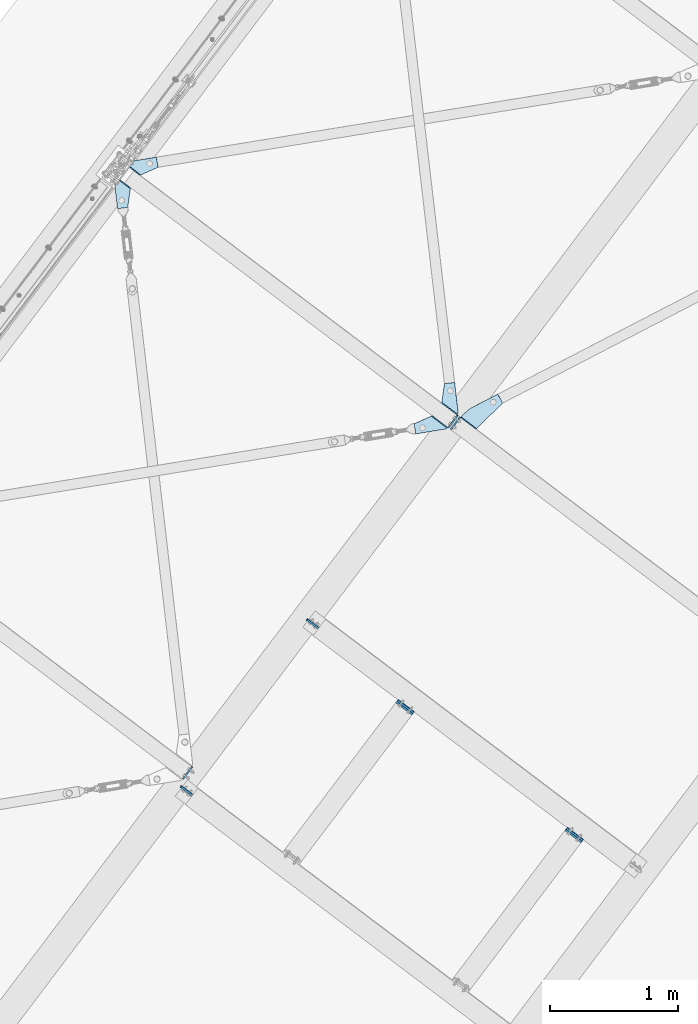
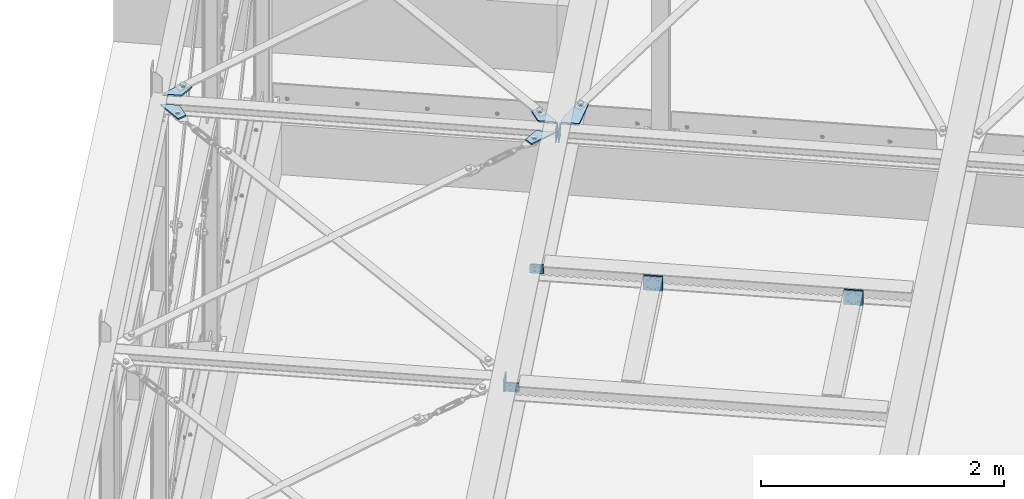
# One storey, part 57 of 476: 14 plates, 63 openings.
"""IFC2X3 building model written with IfcOpenShell, lengths in millimetres."""

from ifc_helpers import new_model, entity, si_unit, converted_unit, point, frame, frame_2d, origin, origin_with_axes, origin_2d_with_axis, place, context, project, spatial, polyline, circle_curve, line_curve, trimmed, segment, composite_curve, circle, outline, extrude, material, layer, layer_set, element, save


model = new_model("IFC2X3")

# Units and contexts
model_context = context("Model", 3, precision=1e-09, world=origin_with_axes())
ifc_project = project(units=[si_unit("LENGTHUNIT", "METRE", prefix="MILLI"), si_unit("AREAUNIT", "SQUARE_METRE"), si_unit("VOLUMEUNIT", "CUBIC_METRE"), converted_unit("PLANEANGLEUNIT", "DEGREE", entity("IfcPlaneAngleMeasure", 0.01745329), si_unit("PLANEANGLEUNIT", "RADIAN"), dimensions=[0, 0, 0, 0, 0, 0, 0])], contexts=[model_context])

# Site, building, storey
site_placement = place(None, origin_with_axes())
site = spatial("IfcSite", under=ifc_project, at=site_placement, Name="mKR Teilneubau & Sanierung BA1 - Ostfildern", CompositionType="ELEMENT")
building_placement = place(site_placement, origin_with_axes())
building = spatial("IfcBuilding", under=site, at=building_placement, Name="Struktur 1", CompositionType="ELEMENT")
storey_placement = place(building_placement, origin_with_axes())
storey = spatial("IfcBuildingStorey", under=building, at=storey_placement, Name="Default Storey", CompositionType="ELEMENT", Elevation=0.0)

# Plate, openings
ifc_material = material(Name="S235JR")
ifc_layer_1 = layer(ifc_material, 15.0)
ifc_layer_set_1 = layer_set([ifc_layer_1], Name="S235JR")
plate_1_placement = place(None, frame((7057.963107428, 3608.258213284, 5423.379264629), z_axis=(-0.018098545, -0.02396011, 0.999549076), x_axis=(0.602462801, 0.797581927, 0.030027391)))
plate_1 = element("IfcPlate", 1, at=plate_1_placement, inside=storey, material=ifc_layer_set_1, Name="-", ObjectType="-", context=model_context, shape_type="SweptSolid", body=[
    extrude(outline(polyline([(0.0, 0.0), (16.761939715, 0.0), (192.636873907, 167.974256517), (137.382787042, 225.827096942), (1.572e-05, 149.999963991), (0.0, 0.0)])), origin_with_axes(), (0.0, 0.0, -1.0), 15.0),
])
opening_1_placement = place(plate_1_placement, frame((0.0, -0.000999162, 0.0), z_axis=(1.05e-07, 1.0, 0.0), x_axis=(1.0, -1.05e-07, 0.0)))
element("IfcOpeningElement", 2, at=opening_1_placement, cuts=plate_1, ObjectType="Opening", context=model_context, shape_type="SweptSolid", body=[
    extrude(outline(polyline([(0.0, 0.0), (8.0, 0.0), (0.0, 8.0), (0.0, 0.0)])), origin(), (0.0, 0.0, 1.0), 154.437489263),
])
opening_2_placement = place(plate_1_placement, frame((121.62025065, 155.460173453, -15.499849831), z_axis=(-7.613e-06, -7.271e-06, 1.0), x_axis=(-0.723163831, -0.690676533, -1.0527e-05)))
element("IfcOpeningElement", 3, at=opening_2_placement, cuts=plate_1, ObjectType="Opening", context=model_context, shape_type="SweptSolid", body=[
    extrude(circle(Radius=14.501, at=origin_2d_with_axis()), origin(), (0.0, 0.0, 1.0), 16.000000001),
])

plate_2_placement = place(None, frame((4454.120199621, 5575.101289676, 5423.379274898), z_axis=(0.018098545, 0.02396011, -0.999549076), x_axis=(0.602462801, 0.797581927, 0.030027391)))
plate_2 = element("IfcPlate", 4, at=plate_2_placement, inside=storey, material=ifc_layer_set_1, Name="-", ObjectType="-", context=model_context, shape_type="SweptSolid", body=[
    extrude(outline(polyline([(0.0, 0.0), (16.761939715, 0.0), (192.636873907, 167.974256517), (137.382787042, 225.827096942), (1.572e-05, 149.999963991), (0.0, 0.0)])), origin_with_axes(), (0.0, 0.0, 1.0), 15.0),
])
opening_3_placement = place(plate_2_placement, frame((1.6183e-05, 154.416490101, 0.0), z_axis=(-1.05e-07, -1.0, 0.0), x_axis=(1.0, -1.05e-07, 0.0)))
element("IfcOpeningElement", 5, at=opening_3_placement, cuts=plate_2, ObjectType="Opening", context=model_context, shape_type="SweptSolid", body=[
    extrude(outline(polyline([(0.0, 0.0), (8.0, 0.0), (0.0, 8.0), (0.0, 0.0)])), origin(), (0.0, 0.0, 1.0), 154.437489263),
])
opening_4_placement = place(plate_2_placement, frame((132.106849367, 165.475673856, 15.499709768), z_axis=(7.613e-06, 7.271e-06, 1.0), x_axis=(1.0, 0.0, -7.613e-06)))
element("IfcOpeningElement", 6, at=opening_4_placement, cuts=plate_2, ObjectType="Opening", context=model_context, shape_type="SweptSolid", body=[
    extrude(circle(Radius=14.501, at=frame_2d((-10.486598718, -10.015500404), x_axis=(1.0, 0.0))), origin(), (0.0, 0.0, -1.0), 16.000000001),
])

plate_3_placement = place(None, frame((4381.825158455, 5479.391625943, 5419.776000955), z_axis=(-0.018098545, -0.02396011, 0.999549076), x_axis=(-0.602462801, -0.797581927, -0.030027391)))
plate_3 = element("IfcPlate", 7, at=plate_3_placement, inside=storey, material=ifc_layer_set_1, Name="-", ObjectType="-", context=model_context, shape_type="SweptSolid", body=[
    extrude(outline(polyline([(0.0, 0.0), (16.761939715, 0.0), (192.636873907, 167.974256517), (137.382787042, 225.827096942), (1.572e-05, 149.999963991), (0.0, 0.0)])), origin_with_axes(), (0.0, 0.0, -1.0), 15.0),
])
opening_5_placement = place(plate_3_placement, frame((0.0, -0.000999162, 0.0), z_axis=(1.05e-07, 1.0, 0.0), x_axis=(1.0, -1.05e-07, 0.0)))
element("IfcOpeningElement", 8, at=opening_5_placement, cuts=plate_3, ObjectType="Opening", context=model_context, shape_type="SweptSolid", body=[
    extrude(outline(polyline([(0.0, 0.0), (8.0, 0.0), (0.0, 8.0), (0.0, 0.0)])), origin(), (0.0, 0.0, 1.0), 154.437489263),
])
opening_6_placement = place(plate_3_placement, frame((121.62025065, 155.460173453, -15.499862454), z_axis=(-7.613e-06, -7.271e-06, 1.0), x_axis=(-0.723163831, -0.690676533, -1.0527e-05)))
element("IfcOpeningElement", 9, at=opening_6_placement, cuts=plate_3, ObjectType="Opening", context=model_context, shape_type="SweptSolid", body=[
    extrude(circle(Radius=14.501, at=origin_2d_with_axis()), origin(), (0.0, 0.0, 1.0), 16.000000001),
])

plate_4_placement = place(None, frame((6985.667597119, 3512.548903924, 5419.775990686), z_axis=(0.018098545, 0.02396011, -0.999549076), x_axis=(-0.602462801, -0.797581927, -0.030027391)))
plate_4 = element("IfcPlate", 10, at=plate_4_placement, inside=storey, material=ifc_layer_set_1, Name="-", ObjectType="-", context=model_context, shape_type="SweptSolid", body=[
    extrude(outline(polyline([(0.0, 0.0), (16.761939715, 0.0), (192.636873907, 167.974256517), (137.382787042, 225.827096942), (1.572e-05, 149.999963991), (0.0, 0.0)])), origin_with_axes(), (0.0, 0.0, 1.0), 15.0),
])
opening_7_placement = place(plate_4_placement, frame((1.6183e-05, 154.416490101, 0.0), z_axis=(-1.05e-07, -1.0, 0.0), x_axis=(1.0, -1.05e-07, 0.0)))
element("IfcOpeningElement", 11, at=opening_7_placement, cuts=plate_4, ObjectType="Opening", context=model_context, shape_type="SweptSolid", body=[
    extrude(outline(polyline([(0.0, 0.0), (8.0, 0.0), (0.0, 8.0), (0.0, 0.0)])), origin(), (0.0, 0.0, 1.0), 154.437489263),
])
opening_8_placement = place(plate_4_placement, frame((132.106849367, 165.475673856, 15.499697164), z_axis=(7.613e-06, 7.271e-06, 1.0), x_axis=(1.0, 0.0, -7.613e-06)))
element("IfcOpeningElement", 12, at=opening_8_placement, cuts=plate_4, ObjectType="Opening", context=model_context, shape_type="SweptSolid", body=[
    extrude(circle(Radius=14.501, at=frame_2d((-10.486598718, -10.015500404), x_axis=(1.0, 0.0))), origin(), (0.0, 0.0, -1.0), 16.000000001),
])

plate_5_placement = place(None, frame((7086.689543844, 3586.559364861, 5423.379264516), z_axis=(0.018098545, 0.02396011, -0.999549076), x_axis=(0.602462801, 0.797581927, 0.030027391)))
plate_5 = element("IfcPlate", 13, at=plate_5_placement, inside=storey, material=ifc_layer_set_1, Name="-", ObjectType="-", context=model_context, shape_type="SweptSolid", body=[
    extrude(outline(polyline([(0.0, 0.0), (70.398485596, 0.0), (323.938469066, 121.203483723), (289.437598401, 193.381665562), (1.572e-05, 149.999963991), (0.0, 0.0)])), origin_with_axes(), (0.0, 0.0, 1.0), 15.0),
])
opening_9_placement = place(plate_5_placement, frame((0.0, 0.0, -0.01), z_axis=(0.0, 0.0, 1.0), x_axis=(1.0, 0.0, 0.0)))
element("IfcOpeningElement", 14, at=opening_9_placement, cuts=plate_5, ObjectType="Opening", context=model_context, shape_type="SweptSolid", body=[
    extrude(outline(composite_curve([segment(trimmed(line_curve((70.398485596, 0.0), (0.902210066, 0.431296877), 39.67855855), [point((70.398485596, 0.0))], [point((106.196880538, 17.113238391))], True, "CARTESIAN"), True, "CONTINUOUS"), segment(trimmed(circle_curve(frame_2d((30.719927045, 175.0), x_axis=(-1.0, 0.0)), 175.0), [point((106.196880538, 17.113238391))], [point((30.719927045, 0.0))], False, "CARTESIAN"), True, "CONTINUOUS"), segment(trimmed(line_curve((30.719927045, 0.0), (1.0, 0.0), 39.67855855), [point((30.719927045, 0.0))], [point((70.398485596, 0.0))], True, "CARTESIAN"), True, "CONTINUOUS")], self_intersect=False)), origin(), (0.0, 0.0, 1.0), 15.02),
])
opening_10_placement = place(plate_5_placement, frame((1.5846e-05, 151.200026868, 0.0), z_axis=(-1.05e-07, -1.0, 0.0), x_axis=(1.0, -1.05e-07, 0.0)))
element("IfcOpeningElement", 15, at=opening_10_placement, cuts=plate_5, ObjectType="Opening", context=model_context, shape_type="SweptSolid", body=[
    extrude(outline(polyline([(0.0, 0.0), (8.0, 0.0), (0.0, 8.0), (0.0, 0.0)])), origin(), (0.0, 0.0, 1.0), 151.22102603),
])
opening_11_placement = place(plate_5_placement, frame((252.555593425, 131.414864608, 15.49981121), z_axis=(-1.1849e-05, -5.664e-06, -1.0), x_axis=(-0.902210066, -0.431296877, 1.3134e-05)))
element("IfcOpeningElement", 16, at=opening_11_placement, cuts=plate_5, ObjectType="Opening", context=model_context, shape_type="SweptSolid", body=[
    extrude(circle(Radius=14.501, at=origin_2d_with_axis()), origin(), (0.0, 0.0, 1.0), 16.000000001),
])

plate_6_placement = place(None, frame((7967.694173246, 307.012140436, 5344.632091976), z_axis=(0.602462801, 0.797581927, 0.030027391), x_axis=(0.018098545, 0.02396011, -0.999549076)))
plate_6 = element("IfcPlate", 17, at=plate_6_placement, inside=storey, material=ifc_layer_set_1, Name="Endplate#1", ObjectType="Endplate#1", context=model_context, shape_type="SweptSolid", body=[
    extrude(outline(polyline([(-70.0, -80.0), (70.0, -80.0), (70.0, 80.0), (-70.0, 80.0), (-70.0, -80.0)])), origin_with_axes(), (0.0, 0.0, 1.0), 15.0),
])
opening_12_placement = place(plate_6_placement, frame((-52.0, 18.0, 15.5), z_axis=(0.0, 0.0, -1.0), x_axis=(-1.0, 0.0, 0.0)))
element("IfcOpeningElement", 18, at=opening_12_placement, cuts=plate_6, ObjectType="Opening", context=model_context, shape_type="SweptSolid", body=[
    extrude(circle(Radius=6.001, at=origin_2d_with_axis()), origin(), (0.0, 0.0, 1.0), 16.0),
])
opening_13_placement = place(plate_6_placement, frame((52.0, 18.0, 15.5), z_axis=(0.0, 0.0, -1.0), x_axis=(-1.0, 0.0, 0.0)))
element("IfcOpeningElement", 19, at=opening_13_placement, cuts=plate_6, ObjectType="Opening", context=model_context, shape_type="SweptSolid", body=[
    extrude(circle(Radius=6.001, at=origin_2d_with_axis()), origin(), (0.0, 0.0, 1.0), 16.0),
])
opening_14_placement = place(plate_6_placement, frame((52.0, -18.0, 15.5), z_axis=(0.0, 0.0, -1.0), x_axis=(-1.0, 0.0, 0.0)))
element("IfcOpeningElement", 20, at=opening_14_placement, cuts=plate_6, ObjectType="Opening", context=model_context, shape_type="SweptSolid", body=[
    extrude(circle(Radius=6.001, at=origin_2d_with_axis()), origin(), (0.0, 0.0, 1.0), 16.0),
])
opening_15_placement = place(plate_6_placement, frame((-52.0, -18.0, 15.5), z_axis=(0.0, 0.0, -1.0), x_axis=(-1.0, 0.0, 0.0)))
element("IfcOpeningElement", 21, at=opening_15_placement, cuts=plate_6, ObjectType="Opening", context=model_context, shape_type="SweptSolid", body=[
    extrude(circle(Radius=6.001, at=origin_2d_with_axis()), origin(), (0.0, 0.0, 1.0), 16.0),
])
opening_16_placement = place(plate_6_placement, frame((35.0, -43.0, 15.5), z_axis=(0.0, 0.0, -1.0), x_axis=(0.0, -1.0, 0.0)))
element("IfcOpeningElement", 22, at=opening_16_placement, cuts=plate_6, ObjectType="Opening", context=model_context, shape_type="SweptSolid", body=[
    extrude(circle(Radius=7.001, at=frame_2d((0.0, 70.0), x_axis=(1.0, 0.0))), origin(), (0.0, 0.0, 1.0), 16.0),
])
opening_17_placement = place(plate_6_placement, frame((35.0, -43.0, 15.5), z_axis=(0.0, 0.0, -1.0), x_axis=(0.0, -1.0, 0.0)))
element("IfcOpeningElement", 23, at=opening_17_placement, cuts=plate_6, ObjectType="Opening", context=model_context, shape_type="SweptSolid", body=[
    extrude(circle(Radius=7.001, at=origin_2d_with_axis()), origin(), (0.0, 0.0, 1.0), 16.0),
])
opening_18_placement = place(plate_6_placement, frame((35.0, 43.0, 15.5), z_axis=(0.0, 0.0, -1.0), x_axis=(-1.0, 0.0, 0.0)))
element("IfcOpeningElement", 24, at=opening_18_placement, cuts=plate_6, ObjectType="Opening", context=model_context, shape_type="SweptSolid", body=[
    extrude(circle(Radius=7.001, at=frame_2d((70.0, 0.0), x_axis=(1.0, 0.0))), origin(), (0.0, 0.0, 1.0), 16.0),
])
opening_19_placement = place(plate_6_placement, frame((35.0, 43.0, 15.5), z_axis=(0.0, 0.0, -1.0), x_axis=(-1.0, 0.0, 0.0)))
element("IfcOpeningElement", 25, at=opening_19_placement, cuts=plate_6, ObjectType="Opening", context=model_context, shape_type="SweptSolid", body=[
    extrude(circle(Radius=7.001, at=origin_2d_with_axis()), origin(), (0.0, 0.0, 1.0), 16.0),
])

plate_7_placement = place(None, frame((7985.768057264, 330.939598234, 5345.532913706), z_axis=(-0.602462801, -0.797581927, -0.030027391), x_axis=(0.797941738, -0.602734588, 0.0)))
plate_7 = element("IfcPlate", 26, at=plate_7_placement, inside=storey, material=ifc_layer_set_1, Name="T-plate", ObjectType="T-plate", context=model_context, shape_type="SweptSolid", body=[
    extrude(outline(polyline([(-80.0, -70.0), (80.0, -70.0), (80.0, 70.0), (-80.0, 70.0), (-80.0, -70.0)])), origin_with_axes(), (0.0, 0.0, 1.0), 15.0),
])
opening_20_placement = place(plate_7_placement, frame((43.0, -35.0, -0.5), z_axis=(0.0, 0.0, 1.0), x_axis=(1.0, 0.0, 0.0)))
element("IfcOpeningElement", 27, at=opening_20_placement, cuts=plate_7, ObjectType="Opening", context=model_context, shape_type="SweptSolid", body=[
    extrude(circle(Radius=7.001, at=frame_2d((0.0, 70.0), x_axis=(1.0, 0.0))), origin(), (0.0, 0.0, 1.0), 16.0),
])
opening_21_placement = place(plate_7_placement, frame((43.0, -35.0, -0.5), z_axis=(0.0, 0.0, 1.0), x_axis=(1.0, 0.0, 0.0)))
element("IfcOpeningElement", 28, at=opening_21_placement, cuts=plate_7, ObjectType="Opening", context=model_context, shape_type="SweptSolid", body=[
    extrude(circle(Radius=7.001, at=origin_2d_with_axis()), origin(), (0.0, 0.0, 1.0), 16.0),
])
opening_22_placement = place(plate_7_placement, frame((-43.0, -35.0, -0.5), z_axis=(0.0, 0.0, 1.0), x_axis=(0.0, 1.0, 0.0)))
element("IfcOpeningElement", 29, at=opening_22_placement, cuts=plate_7, ObjectType="Opening", context=model_context, shape_type="SweptSolid", body=[
    extrude(circle(Radius=7.001, at=frame_2d((70.0, 0.0), x_axis=(1.0, 0.0))), origin(), (0.0, 0.0, 1.0), 16.0),
])
opening_23_placement = place(plate_7_placement, frame((-43.0, -35.0, -0.5), z_axis=(0.0, 0.0, 1.0), x_axis=(0.0, 1.0, 0.0)))
element("IfcOpeningElement", 30, at=opening_23_placement, cuts=plate_7, ObjectType="Opening", context=model_context, shape_type="SweptSolid", body=[
    extrude(circle(Radius=7.001, at=origin_2d_with_axis()), origin(), (0.0, 0.0, 1.0), 16.0),
])

plate_8_placement = place(None, frame((5885.216553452, 2015.875794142, 5299.890733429), z_axis=(-0.602462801, -0.797581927, -0.030027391), x_axis=(0.797941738, -0.602734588, 0.0)))
plate_8 = element("IfcPlate", 31, at=plate_8_placement, inside=storey, material=ifc_layer_set_1, Name="LugPlate#2", ObjectType="LugPlate#2", context=model_context, shape_type="SweptSolid", body=[
    extrude(outline(polyline([(0.0, 0.0), (114.999999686, 0.0), (114.999999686, 90.0), (0.0, 90.0), (0.0, 0.0)])), origin_with_axes(), (0.0, 0.0, 1.0), 15.0),
])
opening_24_placement = place(plate_8_placement, frame((0.0, 0.0, -0.1), z_axis=(0.0, 0.0, 1.0), x_axis=(1.0, 0.0, 0.0)))
element("IfcOpeningElement", 32, at=opening_24_placement, cuts=plate_8, ObjectType="Opening", context=model_context, shape_type="SweptSolid", body=[
    extrude(outline(polyline([(24.002414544, 105.000956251), (-0.000999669, 105.000956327), (-0.000999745, 80.997542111), (24.002414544, 105.000956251)])), origin(), (0.0, 0.0, 1.0), 15.2),
])
opening_25_placement = place(plate_8_placement, frame((82.998999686, 25.0, -0.5), z_axis=(0.0, 0.0, -1.0), x_axis=(-1.0, 0.0, 0.0)))
element("IfcOpeningElement", 33, at=opening_25_placement, cuts=plate_8, ObjectType="Opening", context=model_context, shape_type="SweptSolid", body=[
    extrude(circle(Radius=7.001, at=frame_2d((-7.001, 0.0), x_axis=(1.0, 0.0))), origin(), (0.0, 0.0, -1.0), 16.0),
])
opening_26_placement = place(plate_8_placement, frame((32.998999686, 25.0, -0.5), z_axis=(0.0, 0.0, -1.0), x_axis=(-1.0, 0.0, 0.0)))
element("IfcOpeningElement", 34, at=opening_26_placement, cuts=plate_8, ObjectType="Opening", context=model_context, shape_type="SweptSolid", body=[
    extrude(circle(Radius=7.001, at=frame_2d((-7.001, 0.0), x_axis=(1.0, 0.0))), origin(), (0.0, 0.0, -1.0), 16.0),
])
opening_27_placement = place(plate_8_placement, frame((82.998999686, 65.0, -0.5), z_axis=(0.0, 0.0, -1.0), x_axis=(-1.0, 0.0, 0.0)))
element("IfcOpeningElement", 35, at=opening_27_placement, cuts=plate_8, ObjectType="Opening", context=model_context, shape_type="SweptSolid", body=[
    extrude(circle(Radius=7.001, at=frame_2d((-7.001, 0.0), x_axis=(1.0, 0.0))), origin(), (0.0, 0.0, -1.0), 16.0),
])
opening_28_placement = place(plate_8_placement, frame((32.998999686, 65.0, -0.5), z_axis=(0.0, 0.0, -1.0), x_axis=(-1.0, 0.0, 0.0)))
element("IfcOpeningElement", 36, at=opening_28_placement, cuts=plate_8, ObjectType="Opening", context=model_context, shape_type="SweptSolid", body=[
    extrude(circle(Radius=7.001, at=frame_2d((-7.001, 0.0), x_axis=(1.0, 0.0))), origin(), (0.0, 0.0, -1.0), 16.0),
])

plate_9_placement = place(None, frame((4887.114787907, 694.51935207, 5340.160691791), z_axis=(0.602462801, 0.797581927, 0.030027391), x_axis=(0.797941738, -0.602734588, 0.0)))
plate_9 = element("IfcPlate", 37, at=plate_9_placement, inside=storey, material=ifc_layer_set_1, Name="LugPlate#1", ObjectType="LugPlate#1", context=model_context, shape_type="SweptSolid", body=[
    extrude(outline(polyline([(0.0, 0.0), (115.000000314, 0.0), (115.000000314, 90.0), (0.0, 90.0), (0.0, 0.0)])), origin_with_axes(), (0.0, 0.0, 1.0), 15.0),
])
opening_29_placement = place(plate_9_placement, frame((0.0, 0.0, 15.1), z_axis=(0.0, 0.0, -1.0), x_axis=(1.0, 0.0, 0.0)))
element("IfcOpeningElement", 38, at=opening_29_placement, cuts=plate_9, ObjectType="Opening", context=model_context, shape_type="SweptSolid", body=[
    extrude(outline(polyline([(24.002414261, 15.001043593), (-0.000999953, 15.001043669), (-0.001000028, -9.002370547), (24.002414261, 15.001043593)])), origin(), (0.0, 0.0, 1.0), 15.2),
])
opening_30_placement = place(plate_9_placement, frame((82.999000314, 65.0, 15.5), z_axis=(0.0, 0.0, 1.0), x_axis=(1.0, 0.0, 0.0)))
element("IfcOpeningElement", 39, at=opening_30_placement, cuts=plate_9, ObjectType="Opening", context=model_context, shape_type="SweptSolid", body=[
    extrude(circle(Radius=7.001, at=frame_2d((7.001, 0.0), x_axis=(1.0, 0.0))), origin(), (0.0, 0.0, -1.0), 16.0),
])
opening_31_placement = place(plate_9_placement, frame((32.999000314, 65.0, 15.5), z_axis=(0.0, 0.0, 1.0), x_axis=(1.0, 0.0, 0.0)))
element("IfcOpeningElement", 40, at=opening_31_placement, cuts=plate_9, ObjectType="Opening", context=model_context, shape_type="SweptSolid", body=[
    extrude(circle(Radius=7.001, at=frame_2d((7.001, 0.0), x_axis=(1.0, 0.0))), origin(), (0.0, 0.0, -1.0), 16.0),
])
opening_32_placement = place(plate_9_placement, frame((82.999000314, 25.0, 15.5), z_axis=(0.0, 0.0, 1.0), x_axis=(1.0, 0.0, 0.0)))
element("IfcOpeningElement", 41, at=opening_32_placement, cuts=plate_9, ObjectType="Opening", context=model_context, shape_type="SweptSolid", body=[
    extrude(circle(Radius=7.001, at=frame_2d((7.001, 0.0), x_axis=(1.0, 0.0))), origin(), (0.0, 0.0, -1.0), 16.0),
])
opening_33_placement = place(plate_9_placement, frame((32.999000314, 25.0, 15.5), z_axis=(0.0, 0.0, 1.0), x_axis=(1.0, 0.0, 0.0)))
element("IfcOpeningElement", 42, at=opening_33_placement, cuts=plate_9, ObjectType="Opening", context=model_context, shape_type="SweptSolid", body=[
    extrude(circle(Radius=7.001, at=frame_2d((7.001, 0.0), x_axis=(1.0, 0.0))), origin(), (0.0, 0.0, -1.0), 16.0),
])

plate_10_placement = place(None, frame((6643.110888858, 1307.55155631, 5344.6320972), z_axis=(0.602462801, 0.797581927, 0.030027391), x_axis=(0.018098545, 0.02396011, -0.999549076)))
plate_10 = element("IfcPlate", 43, at=plate_10_placement, inside=storey, material=ifc_layer_set_1, Name="Endplate#1", ObjectType="Endplate#1", context=model_context, shape_type="SweptSolid", body=[
    extrude(outline(polyline([(-70.0, -80.0), (70.0, -80.0), (70.0, 80.0), (-70.0, 80.0), (-70.0, -80.0)])), origin_with_axes(), (0.0, 0.0, 1.0), 15.0),
])
opening_34_placement = place(plate_10_placement, frame((-52.0, 18.0, 15.5), z_axis=(0.0, 0.0, -1.0), x_axis=(-1.0, 0.0, 0.0)))
element("IfcOpeningElement", 44, at=opening_34_placement, cuts=plate_10, ObjectType="Opening", context=model_context, shape_type="SweptSolid", body=[
    extrude(circle(Radius=6.001, at=origin_2d_with_axis()), origin(), (0.0, 0.0, 1.0), 16.0),
])
opening_35_placement = place(plate_10_placement, frame((52.0, 18.0, 15.5), z_axis=(0.0, 0.0, -1.0), x_axis=(-1.0, 0.0, 0.0)))
element("IfcOpeningElement", 45, at=opening_35_placement, cuts=plate_10, ObjectType="Opening", context=model_context, shape_type="SweptSolid", body=[
    extrude(circle(Radius=6.001, at=origin_2d_with_axis()), origin(), (0.0, 0.0, 1.0), 16.0),
])
opening_36_placement = place(plate_10_placement, frame((52.0, -18.0, 15.5), z_axis=(0.0, 0.0, -1.0), x_axis=(-1.0, 0.0, 0.0)))
element("IfcOpeningElement", 46, at=opening_36_placement, cuts=plate_10, ObjectType="Opening", context=model_context, shape_type="SweptSolid", body=[
    extrude(circle(Radius=6.001, at=origin_2d_with_axis()), origin(), (0.0, 0.0, 1.0), 16.0),
])
opening_37_placement = place(plate_10_placement, frame((-52.0, -18.0, 15.5), z_axis=(0.0, 0.0, -1.0), x_axis=(-1.0, 0.0, 0.0)))
element("IfcOpeningElement", 47, at=opening_37_placement, cuts=plate_10, ObjectType="Opening", context=model_context, shape_type="SweptSolid", body=[
    extrude(circle(Radius=6.001, at=origin_2d_with_axis()), origin(), (0.0, 0.0, 1.0), 16.0),
])
opening_38_placement = place(plate_10_placement, frame((35.0, 43.0, 15.5), z_axis=(0.0, 0.0, -1.0), x_axis=(-1.0, 0.0, 0.0)))
element("IfcOpeningElement", 48, at=opening_38_placement, cuts=plate_10, ObjectType="Opening", context=model_context, shape_type="SweptSolid", body=[
    extrude(circle(Radius=7.001, at=frame_2d((70.0, 0.0), x_axis=(1.0, 0.0))), origin(), (0.0, 0.0, 1.0), 16.0),
])
opening_39_placement = place(plate_10_placement, frame((35.0, 43.0, 15.5), z_axis=(0.0, 0.0, -1.0), x_axis=(-1.0, 0.0, 0.0)))
element("IfcOpeningElement", 49, at=opening_39_placement, cuts=plate_10, ObjectType="Opening", context=model_context, shape_type="SweptSolid", body=[
    extrude(circle(Radius=7.001, at=origin_2d_with_axis()), origin(), (0.0, 0.0, 1.0), 16.0),
])
opening_40_placement = place(plate_10_placement, frame((35.0, -43.0, 15.5), z_axis=(0.0, 0.0, -1.0), x_axis=(0.0, -1.0, 0.0)))
element("IfcOpeningElement", 50, at=opening_40_placement, cuts=plate_10, ObjectType="Opening", context=model_context, shape_type="SweptSolid", body=[
    extrude(circle(Radius=7.001, at=frame_2d((0.0, 70.0), x_axis=(1.0, 0.0))), origin(), (0.0, 0.0, 1.0), 16.0),
])
opening_41_placement = place(plate_10_placement, frame((35.0, -43.0, 15.5), z_axis=(0.0, 0.0, -1.0), x_axis=(0.0, -1.0, 0.0)))
element("IfcOpeningElement", 51, at=opening_41_placement, cuts=plate_10, ObjectType="Opening", context=model_context, shape_type="SweptSolid", body=[
    extrude(circle(Radius=7.001, at=origin_2d_with_axis()), origin(), (0.0, 0.0, 1.0), 16.0),
])

plate_11_placement = place(None, frame((6661.184772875, 1331.479014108, 5345.53291893), z_axis=(-0.602462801, -0.797581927, -0.030027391), x_axis=(0.797941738, -0.602734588, 0.0)))
plate_11 = element("IfcPlate", 52, at=plate_11_placement, inside=storey, material=ifc_layer_set_1, Name="T-plate", ObjectType="T-plate", context=model_context, shape_type="SweptSolid", body=[
    extrude(outline(polyline([(-80.0, -70.0), (80.0, -70.0), (80.0, 70.0), (-80.0, 70.0), (-80.0, -70.0)])), origin_with_axes(), (0.0, 0.0, 1.0), 15.0),
])
opening_42_placement = place(plate_11_placement, frame((-43.0, -35.0, -0.5), z_axis=(0.0, 0.0, 1.0), x_axis=(0.0, 1.0, 0.0)))
element("IfcOpeningElement", 53, at=opening_42_placement, cuts=plate_11, ObjectType="Opening", context=model_context, shape_type="SweptSolid", body=[
    extrude(circle(Radius=7.001, at=frame_2d((70.0, 0.0), x_axis=(1.0, 0.0))), origin(), (0.0, 0.0, 1.0), 16.0),
])
opening_43_placement = place(plate_11_placement, frame((-43.0, -35.0, -0.5), z_axis=(0.0, 0.0, 1.0), x_axis=(0.0, 1.0, 0.0)))
element("IfcOpeningElement", 54, at=opening_43_placement, cuts=plate_11, ObjectType="Opening", context=model_context, shape_type="SweptSolid", body=[
    extrude(circle(Radius=7.001, at=origin_2d_with_axis()), origin(), (0.0, 0.0, 1.0), 16.0),
])
opening_44_placement = place(plate_11_placement, frame((43.0, -35.0, -0.5), z_axis=(0.0, 0.0, 1.0), x_axis=(1.0, 0.0, 0.0)))
element("IfcOpeningElement", 55, at=opening_44_placement, cuts=plate_11, ObjectType="Opening", context=model_context, shape_type="SweptSolid", body=[
    extrude(circle(Radius=7.001, at=frame_2d((0.0, 70.0), x_axis=(1.0, 0.0))), origin(), (0.0, 0.0, 1.0), 16.0),
])
opening_45_placement = place(plate_11_placement, frame((43.0, -35.0, -0.5), z_axis=(0.0, 0.0, 1.0), x_axis=(1.0, 0.0, 0.0)))
element("IfcOpeningElement", 56, at=opening_45_placement, cuts=plate_11, ObjectType="Opening", context=model_context, shape_type="SweptSolid", body=[
    extrude(circle(Radius=7.001, at=origin_2d_with_axis()), origin(), (0.0, 0.0, 1.0), 16.0),
])

ifc_layer_2 = layer(ifc_material, 12.0)
ifc_layer_set_2 = layer_set([ifc_layer_2], Name="S235JR")
plate_12_placement = place(None, frame((4915.718181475, 752.295774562, 5321.082135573), z_axis=(-0.797941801, 0.602734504, 0.0), x_axis=(0.602462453, 0.797581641, 0.030041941)))
plate_12 = element("IfcPlate", 57, at=plate_12_placement, inside=storey, material=ifc_layer_set_2, Name="Endplate", ObjectType="Endplate", context=model_context, shape_type="SweptSolid", body=[
    extrude(outline(polyline([(0.0, 0.0), (120.0, 0.0), (120.0, 124.0), (0.0, 124.0), (0.0, 0.0)])), origin_with_axes(), (0.0, 0.0, 1.0), 12.0),
])
opening_46_placement = place(plate_12_placement, frame((45.5, 99.0, -0.5), z_axis=(0.0, 0.0, 1.0), x_axis=(0.0, 1.0, 0.0)))
element("IfcOpeningElement", 58, at=opening_46_placement, cuts=plate_12, ObjectType="Opening", context=model_context, shape_type="SweptSolid", body=[
    extrude(circle(Radius=6.001, at=origin_2d_with_axis()), origin(), (0.0, 0.0, 1.0), 13.0),
])
opening_47_placement = place(plate_12_placement, frame((45.5, 25.0, -0.5), z_axis=(0.0, 0.0, 1.0), x_axis=(0.0, 1.0, 0.0)))
element("IfcOpeningElement", 59, at=opening_47_placement, cuts=plate_12, ObjectType="Opening", context=model_context, shape_type="SweptSolid", body=[
    extrude(circle(Radius=6.001, at=origin_2d_with_axis()), origin(), (0.0, 0.0, 1.0), 13.0),
])
opening_48_placement = place(plate_12_placement, frame((74.5, 25.0, -0.5), z_axis=(0.0, 0.0, 1.0), x_axis=(0.0, 1.0, 0.0)))
element("IfcOpeningElement", 60, at=opening_48_placement, cuts=plate_12, ObjectType="Opening", context=model_context, shape_type="SweptSolid", body=[
    extrude(circle(Radius=6.001, at=origin_2d_with_axis()), origin(), (0.0, 0.0, 1.0), 13.0),
])
opening_49_placement = place(plate_12_placement, frame((74.5, 99.0, -0.5), z_axis=(0.0, 0.0, 1.0), x_axis=(0.0, 1.0, 0.0)))
element("IfcOpeningElement", 61, at=opening_49_placement, cuts=plate_12, ObjectType="Opening", context=model_context, shape_type="SweptSolid", body=[
    extrude(circle(Radius=6.001, at=origin_2d_with_axis()), origin(), (0.0, 0.0, 1.0), 13.0),
])
opening_50_placement = place(plate_12_placement, frame((90.0, 62.0, -0.5), z_axis=(0.0, 0.0, 1.0), x_axis=(0.0, -1.0, 0.0)))
element("IfcOpeningElement", 62, at=opening_50_placement, cuts=plate_12, ObjectType="Opening", context=model_context, shape_type="SweptSolid", body=[
    extrude(circle(Radius=7.001, at=origin_2d_with_axis()), origin(), (0.0, 0.0, 1.0), 13.0),
])
opening_51_placement = place(plate_12_placement, frame((30.0, 62.0, -0.5), z_axis=(0.0, 0.0, 1.0), x_axis=(0.0, -1.0, 0.0)))
element("IfcOpeningElement", 63, at=opening_51_placement, cuts=plate_12, ObjectType="Opening", context=model_context, shape_type="SweptSolid", body=[
    extrude(circle(Radius=7.001, at=origin_2d_with_axis()), origin(), (0.0, 0.0, 1.0), 13.0),
])

plate_13_placement = place(None, frame((6995.15370887, 3505.196956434, 5424.772584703), z_axis=(-0.797941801, 0.602734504, 0.0), x_axis=(0.602462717, 0.79758199, 0.030027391)))
plate_13 = element("IfcPlate", 64, at=plate_13_placement, inside=storey, material=ifc_layer_set_2, Name="Endplate", ObjectType="Endplate", context=model_context, shape_type="SweptSolid", body=[
    extrude(outline(polyline([(0.0, 0.0), (120.0, 0.0), (120.0, 124.0), (0.0, 124.0), (0.0, 0.0)])), origin_with_axes(), (0.0, 0.0, 1.0), 12.0),
])
opening_52_placement = place(plate_13_placement, frame((90.0, 62.0, -0.5), z_axis=(0.0, 0.0, 1.0), x_axis=(0.0, -1.0, 0.0)))
element("IfcOpeningElement", 65, at=opening_52_placement, cuts=plate_13, ObjectType="Opening", context=model_context, shape_type="SweptSolid", body=[
    extrude(circle(Radius=7.001, at=origin_2d_with_axis()), origin(), (0.0, 0.0, 1.0), 13.0),
])
opening_53_placement = place(plate_13_placement, frame((30.0, 62.0, -0.5), z_axis=(0.0, 0.0, 1.0), x_axis=(0.0, -1.0, 0.0)))
element("IfcOpeningElement", 66, at=opening_53_placement, cuts=plate_13, ObjectType="Opening", context=model_context, shape_type="SweptSolid", body=[
    extrude(circle(Radius=7.001, at=origin_2d_with_axis()), origin(), (0.0, 0.0, 1.0), 13.0),
])
opening_54_placement = place(plate_13_placement, frame((45.5, 99.0, -0.5), z_axis=(0.0, 0.0, 1.0), x_axis=(0.0, 1.0, 0.0)))
element("IfcOpeningElement", 67, at=opening_54_placement, cuts=plate_13, ObjectType="Opening", context=model_context, shape_type="SweptSolid", body=[
    extrude(circle(Radius=6.001, at=origin_2d_with_axis()), origin(), (0.0, 0.0, 1.0), 13.0),
])
opening_55_placement = place(plate_13_placement, frame((45.5, 25.0, -0.5), z_axis=(0.0, 0.0, 1.0), x_axis=(0.0, 1.0, 0.0)))
element("IfcOpeningElement", 68, at=opening_55_placement, cuts=plate_13, ObjectType="Opening", context=model_context, shape_type="SweptSolid", body=[
    extrude(circle(Radius=6.001, at=origin_2d_with_axis()), origin(), (0.0, 0.0, 1.0), 13.0),
])
opening_56_placement = place(plate_13_placement, frame((74.5, 25.0, -0.5), z_axis=(0.0, 0.0, 1.0), x_axis=(0.0, 1.0, 0.0)))
element("IfcOpeningElement", 69, at=opening_56_placement, cuts=plate_13, ObjectType="Opening", context=model_context, shape_type="SweptSolid", body=[
    extrude(circle(Radius=6.001, at=origin_2d_with_axis()), origin(), (0.0, 0.0, 1.0), 13.0),
])
opening_57_placement = place(plate_13_placement, frame((74.5, 99.0, -0.5), z_axis=(0.0, 0.0, 1.0), x_axis=(0.0, 1.0, 0.0)))
element("IfcOpeningElement", 70, at=opening_57_placement, cuts=plate_13, ObjectType="Opening", context=model_context, shape_type="SweptSolid", body=[
    extrude(circle(Radius=6.001, at=origin_2d_with_axis()), origin(), (0.0, 0.0, 1.0), 13.0),
])

plate_14_placement = place(None, frame((7077.024534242, 3593.673978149, 5428.375871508), z_axis=(0.797941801, -0.602734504, 0.0), x_axis=(-0.602462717, -0.79758199, -0.030027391)))
plate_14 = element("IfcPlate", 71, at=plate_14_placement, inside=storey, material=ifc_layer_set_2, Name="Endplate", ObjectType="Endplate", context=model_context, shape_type="SweptSolid", body=[
    extrude(outline(polyline([(0.0, 0.0), (120.0, 0.0), (120.0, 124.0), (0.0, 124.0), (0.0, 0.0)])), origin_with_axes(), (0.0, 0.0, 1.0), 12.0),
])
opening_58_placement = place(plate_14_placement, frame((89.999996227, 62.0, 12.5), z_axis=(0.0, 0.0, -1.0), x_axis=(0.0, -1.0, 0.0)))
element("IfcOpeningElement", 72, at=opening_58_placement, cuts=plate_14, ObjectType="Opening", context=model_context, shape_type="SweptSolid", body=[
    extrude(circle(Radius=7.001, at=origin_2d_with_axis()), origin(), (0.0, 0.0, 1.0), 13.0),
])
opening_59_placement = place(plate_14_placement, frame((29.999996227, 62.0, 12.5), z_axis=(0.0, 0.0, -1.0), x_axis=(0.0, -1.0, 0.0)))
element("IfcOpeningElement", 73, at=opening_59_placement, cuts=plate_14, ObjectType="Opening", context=model_context, shape_type="SweptSolid", body=[
    extrude(circle(Radius=7.001, at=origin_2d_with_axis()), origin(), (0.0, 0.0, 1.0), 13.0),
])
opening_60_placement = place(plate_14_placement, frame((74.5, 99.0, -0.5), z_axis=(0.0, 0.0, 1.0), x_axis=(0.0, -1.0, 0.0)))
element("IfcOpeningElement", 74, at=opening_60_placement, cuts=plate_14, ObjectType="Opening", context=model_context, shape_type="SweptSolid", body=[
    extrude(circle(Radius=6.001, at=origin_2d_with_axis()), origin(), (0.0, 0.0, 1.0), 13.0),
])
opening_61_placement = place(plate_14_placement, frame((74.5, 25.0, -0.5), z_axis=(0.0, 0.0, 1.0), x_axis=(0.0, -1.0, 0.0)))
element("IfcOpeningElement", 75, at=opening_61_placement, cuts=plate_14, ObjectType="Opening", context=model_context, shape_type="SweptSolid", body=[
    extrude(circle(Radius=6.001, at=origin_2d_with_axis()), origin(), (0.0, 0.0, 1.0), 13.0),
])
opening_62_placement = place(plate_14_placement, frame((45.5, 25.0, -0.5), z_axis=(0.0, 0.0, 1.0), x_axis=(0.0, -1.0, 0.0)))
element("IfcOpeningElement", 76, at=opening_62_placement, cuts=plate_14, ObjectType="Opening", context=model_context, shape_type="SweptSolid", body=[
    extrude(circle(Radius=6.001, at=origin_2d_with_axis()), origin(), (0.0, 0.0, 1.0), 13.0),
])
opening_63_placement = place(plate_14_placement, frame((45.5, 99.0, -0.5), z_axis=(0.0, 0.0, 1.0), x_axis=(0.0, -1.0, 0.0)))
element("IfcOpeningElement", 77, at=opening_63_placement, cuts=plate_14, ObjectType="Opening", context=model_context, shape_type="SweptSolid", body=[
    extrude(circle(Radius=6.001, at=origin_2d_with_axis()), origin(), (0.0, 0.0, 1.0), 13.0),
])

save(model, "model.ifc")
